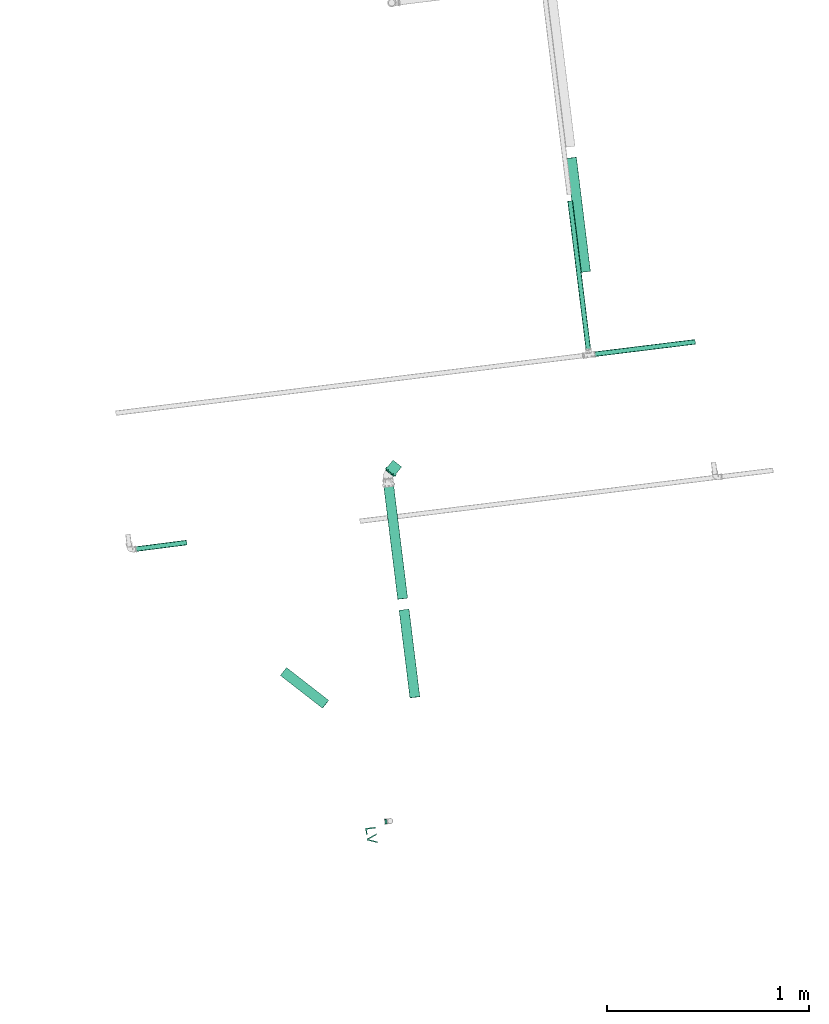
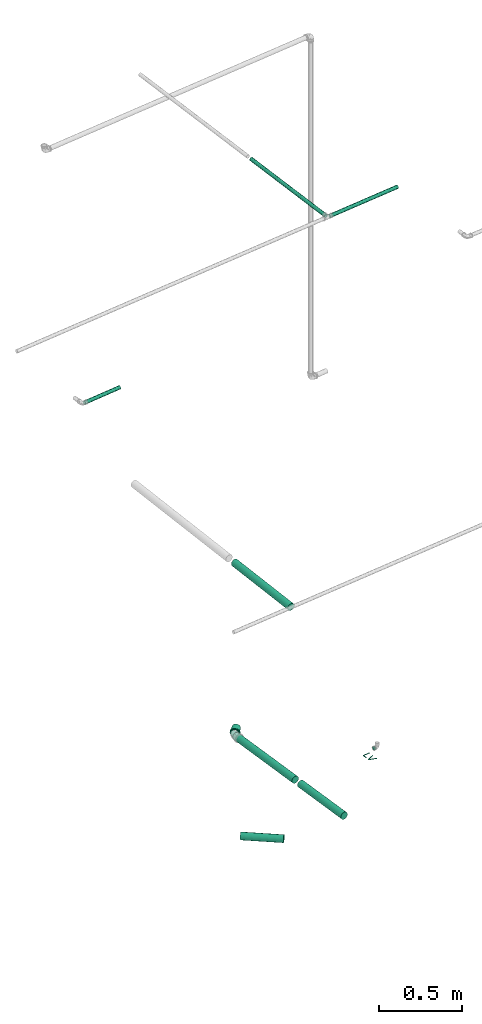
# One storey, part 4 of 8: 7 flow segments, 1 flow fitting, 1 flow terminal.
"""IFC2X3 building model written with IfcOpenShell, lengths in centimetres."""

from ifc_helpers import new_model, entity, si_unit, converted_unit, derived_unit, direction, frame, frame_2d, origin, origin_2d_with_axis, place, context, subcontext, project, spatial, polyline, circle, outline, extrude, faceted_brep, source, transform, mapped, material, material_list, type_object, type_shapes, element, save


model = new_model("IFC2X3")

# Units and contexts
model_context = context("Model", 3, precision=0.001, world=origin(), true_north=direction((6.12303176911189e-17, 1.0)))
body_context = subcontext(model_context, "Body", "Model", "MODEL_VIEW")
ifc_project = project(units=[si_unit("LENGTHUNIT", "METRE", prefix="CENTI"), si_unit("AREAUNIT", "SQUARE_METRE"), si_unit("VOLUMEUNIT", "CUBIC_METRE"), converted_unit("PLANEANGLEUNIT", "DEGREE", entity("IfcRatioMeasure", 0.0174532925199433), si_unit("PLANEANGLEUNIT", "RADIAN"), dimensions=[0, 0, 0, 0, 0, 0, 0]), si_unit("MASSUNIT", "GRAM", prefix="KILO"), derived_unit("MASSDENSITYUNIT", [(si_unit("MASSUNIT", "GRAM", prefix="KILO"), 1), (si_unit("LENGTHUNIT", "METRE"), -3)]), derived_unit("MOMENTOFINERTIAUNIT", [(si_unit("LENGTHUNIT", "METRE"), 4)]), si_unit("TIMEUNIT", "SECOND"), si_unit("FREQUENCYUNIT", "HERTZ"), si_unit("THERMODYNAMICTEMPERATUREUNIT", "DEGREE_CELSIUS"), derived_unit("THERMALTRANSMITTANCEUNIT", [(si_unit("MASSUNIT", "GRAM", prefix="KILO"), 1), (si_unit("THERMODYNAMICTEMPERATUREUNIT", "KELVIN"), -1), (si_unit("TIMEUNIT", "SECOND"), -3)]), derived_unit("VOLUMETRICFLOWRATEUNIT", [(si_unit("LENGTHUNIT", "METRE"), 3), (si_unit("TIMEUNIT", "SECOND"), -1)]), si_unit("ELECTRICCURRENTUNIT", "AMPERE"), si_unit("ELECTRICVOLTAGEUNIT", "VOLT"), si_unit("POWERUNIT", "WATT"), si_unit("FORCEUNIT", "NEWTON", prefix="KILO"), si_unit("ILLUMINANCEUNIT", "LUX"), si_unit("LUMINOUSFLUXUNIT", "LUMEN"), si_unit("LUMINOUSINTENSITYUNIT", "CANDELA"), derived_unit("USERDEFINED", [(si_unit("MASSUNIT", "GRAM", prefix="KILO"), -1), (si_unit("LENGTHUNIT", "METRE"), -2), (si_unit("TIMEUNIT", "SECOND"), 3), (si_unit("LUMINOUSFLUXUNIT", "LUMEN"), 1)]), derived_unit("LINEARVELOCITYUNIT", [(si_unit("LENGTHUNIT", "METRE"), 1), (si_unit("TIMEUNIT", "SECOND"), -1)]), si_unit("PRESSUREUNIT", "PASCAL"), derived_unit("USERDEFINED", [(si_unit("LENGTHUNIT", "METRE"), -2), (si_unit("MASSUNIT", "GRAM", prefix="KILO"), 1), (si_unit("TIMEUNIT", "SECOND"), -2)]), derived_unit("LINEARFORCEUNIT", [(si_unit("MASSUNIT", "GRAM", prefix="KILO"), 1), (si_unit("LENGTHUNIT", "METRE"), 1), (si_unit("TIMEUNIT", "SECOND"), -2), (si_unit("LENGTHUNIT", "METRE"), -1)]), derived_unit("PLANARFORCEUNIT", [(si_unit("MASSUNIT", "GRAM", prefix="KILO"), 1), (si_unit("LENGTHUNIT", "METRE"), 1), (si_unit("TIMEUNIT", "SECOND"), -2), (si_unit("LENGTHUNIT", "METRE"), -2)])], contexts=[model_context])

# Site, building, storey
site_placement = place(None, origin())
site = spatial("IfcSite", under=ifc_project, at=site_placement, Name="Default", CompositionType="ELEMENT")
building_placement = place(site_placement, origin())
building = spatial("IfcBuilding", under=site, at=building_placement, Name="HIDROSSANITÁRIO", CompositionType="ELEMENT")
storey_placement = place(building_placement, origin())
storey = spatial("IfcBuildingStorey", under=building, at=storey_placement, Name="TERRENO", CompositionType="ELEMENT", Elevation=0.0)

# Flow segments
pipe_segment_type_1 = type_object("IfcPipeSegmentType", Name="Tipos de tubos:Tubo Marrom - Água Fria - Soldável", PredefinedType="NOTDEFINED")
flow_segment_1_placement = place(storey_placement, origin())
element("IfcFlowSegment", 1, at=flow_segment_1_placement, inside=storey, type_object=pipe_segment_type_1, Name="Tipos de tubos:Tubo Marrom - Água Fria - Soldável", ObjectType="Tipos de tubos:Tubo Marrom - Água Fria - Soldável", context=body_context, shape_type="SweptSolid", body=[
    extrude(circle(Radius=1.25, at=frame_2d((2.14950323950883e-13, -3.38377009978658e-15), x_axis=(1.0, 0.0))), frame((-1580.41923541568, 3047.09863092, 17.3894348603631), z_axis=(0.122199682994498, -0.992505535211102, -7.16711588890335e-06), x_axis=(-0.992505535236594, -0.122199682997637, 0.0)), (0.0, 0.0, 1.0), 75.2515187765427),
])
flow_segment_2_placement = place(storey_placement, origin())
element("IfcFlowSegment", 2, at=flow_segment_2_placement, inside=storey, type_object=pipe_segment_type_1, Name="Tipos de tubos:Tubo Marrom - Água Fria - Soldável", ObjectType="Tipos de tubos:Tubo Marrom - Água Fria - Soldável", context=body_context, shape_type="SweptSolid", body=[
    extrude(circle(Radius=1.25, at=frame_2d((2.75448654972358e-14, -2.80964568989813e-28), x_axis=(1.0, 0.0))), frame((-1796.51320221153, 2874.79220842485, 17.3890188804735), z_axis=(0.991879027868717, 0.127184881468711, 0.0), x_axis=(0.127184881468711, -0.991879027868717, 0.0)), (0.0, 0.0, 1.0), 26.8724472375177),
])
flow_segment_3_placement = place(storey_placement, origin())
element("IfcFlowSegment", 3, at=flow_segment_3_placement, inside=storey, type_object=pipe_segment_type_1, Name="Tipos de tubos:Tubo Marrom - Água Fria - Soldável", ObjectType="Tipos de tubos:Tubo Marrom - Água Fria - Soldável", context=body_context, shape_type="SweptSolid", body=[
    extrude(circle(Radius=1.25, at=origin_2d_with_axis()), frame((-1569.46825033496, 2971.16624647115, 17.3888858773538), z_axis=(0.992505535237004, 0.122199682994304, 0.0), x_axis=(-0.122199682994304, 0.992505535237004, 0.0)), (0.0, 0.0, 1.0), 51.3459060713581),
])

# Flow terminal
ifc_material_1 = material(Name=".ID PONTOS DE CONSUMO")
ifc_material_2 = material(Name="<Unnamed>")
ifc_material_list_1 = material_list([ifc_material_1, ifc_material_2])
ifc_material_list_2 = material_list([ifc_material_1, ifc_material_1, ifc_material_2])
distribution_element_type = type_object("IfcDistributionElementType", Name="Pontos de Consumo :LAVATÓRIO", material=ifc_material_list_2)
shared_shape_1 = source(origin(), body_context, "Body", "SweptSolid", [
    extrude(outline(polyline([(-1.25570387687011, -1.88355581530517), (1.88355581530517, -1.88355581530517), (1.88355581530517, -1.25570387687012), (-0.627851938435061, -1.25570387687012), (-0.627851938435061, 3.13925969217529), (-1.25570387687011, 3.13925969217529), (-1.25570387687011, -1.88355581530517)])), frame((-3.28228646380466, 9.11204229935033, 0.0), z_axis=(0.0, 0.0, 1.0), x_axis=(-1.0, 0.0, 0.0)), (0.0, 0.0, 1.0), 0.2),
    extrude(outline(polyline([(-0.291035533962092, -2.60978212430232), (0.357663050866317, -2.60978212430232), (2.27187569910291, 2.41303338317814), (1.59987792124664, 2.41303338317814), (0.258334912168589, -1.20569917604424), (-0.00899267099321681, -2.02117093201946), (-0.279999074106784, -1.20569917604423), (-1.61786326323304, 2.41303338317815), (-2.28986104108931, 2.41303338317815), (-0.291035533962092, -2.60978212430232)])), frame((-7.6470019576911, 8.3858159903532, 0.0), z_axis=(0.0, 0.0, 1.0), x_axis=(-1.0, 0.0, 0.0)), (0.0, 0.0, 1.0), 0.2),
    extrude(circle(Radius=1.25, at=frame_2d((-6.58881963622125e-17, -2.01943071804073e-15), x_axis=(1.0, 0.0))), frame((0.0, 0.0, 0.0), z_axis=(0.0, 1.0, 0.0), x_axis=(1.0, 0.0, 0.0)), (0.0, 0.0, 1.0), 1.0),
])
type_shapes(distribution_element_type, [shared_shape_1])
flow_terminal_placement = place(storey_placement, frame((-1670.93297378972, 2740.3444434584, -200.0), z_axis=(0.0, 0.0, 1.0), x_axis=(-0.125262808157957, 0.992123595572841, 0.0)))
element("IfcFlowTerminal", 4, at=flow_terminal_placement, inside=storey, type_object=distribution_element_type, material=ifc_material_list_1, Name="Pontos de Consumo :LAVATÓRIO", ObjectType="Pontos de Consumo :LAVATÓRIO", context=body_context, shape_type="MappedRepresentation", body=[
    mapped(shared_shape_1, transform((0.0, 0.0, 0.0), scale=1.0)),
])

# Flow segments
pipe_segment_type_2 = type_object("IfcPipeSegmentType", Name="Tipos de tubos:Tubo - Esgoto - Série Normal", PredefinedType="NOTDEFINED")
flow_segment_4_placement = place(storey_placement, origin())
element("IfcFlowSegment", 5, at=flow_segment_4_placement, inside=storey, type_object=pipe_segment_type_2, Name="Tipos de tubos:Tubo - Esgoto - Série Normal", ObjectType="Tipos de tubos:Tubo - Esgoto - Série Normal", context=body_context, shape_type="SweptSolid", body=[
    extrude(circle(Radius=2.5, at=frame_2d((-1.61771824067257e-13, -8.01694277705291e-15), x_axis=(1.0, 0.0))), frame((-1657.12489057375, 2801.68985739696, -292.200000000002), z_axis=(-0.122720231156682, 0.992285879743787, -0.0175635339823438), x_axis=(-0.992438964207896, -0.122739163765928, 0.0)), (0.0, 0.0, 1.0), 43.6327346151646),
])
flow_segment_5_placement = place(storey_placement, origin())
element("IfcFlowSegment", 6, at=flow_segment_5_placement, inside=storey, type_object=pipe_segment_type_2, Name="Tipos de tubos:Tubo - Esgoto - Série Normal", ObjectType="Tipos de tubos:Tubo - Esgoto - Série Normal", context=body_context, shape_type="SweptSolid", body=[
    extrude(circle(Radius=2.5, at=frame_2d((3.42020719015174e-13, -4.66884115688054e-15), x_axis=(1.0, 0.0))), frame((-1701.24737105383, 2798.24613537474, -291.700000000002), z_axis=(-0.789496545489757, 0.613503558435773, -0.017566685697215), x_axis=(-0.613598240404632, -0.789618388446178, 0.0)), (0.0, 0.0, 1.0), 26.3947188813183),
])
flow_segment_6_placement = place(storey_placement, origin())
element("IfcFlowSegment", 7, at=flow_segment_6_placement, inside=storey, type_object=pipe_segment_type_2, Name="Tipos de tubos:Tubo - Esgoto - Série Normal", ObjectType="Tipos de tubos:Tubo - Esgoto - Série Normal", context=body_context, shape_type="SweptSolid", body=[
    extrude(circle(Radius=2.5, at=frame_2d((2.68099988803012e-13, -7.08319360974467e-15), x_axis=(1.0, 0.0))), frame((-1663.15201671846, 2850.42373047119, -293.062593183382), z_axis=(-0.122720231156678, 0.992285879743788, -0.0175635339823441), x_axis=(-0.992438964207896, -0.122739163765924, 0.0)), (0.0, 0.0, 1.0), 59.5935161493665),
])
flow_segment_7_placement = place(storey_placement, origin())
element("IfcFlowSegment", 8, at=flow_segment_7_placement, inside=storey, type_object=pipe_segment_type_2, Name="Tipos de tubos:Tubo - Esgoto - Série Normal", ObjectType="Tipos de tubos:Tubo - Esgoto - Série Normal", context=body_context, shape_type="SweptSolid", body=[
    extrude(circle(Radius=2.5, at=frame_2d((5.29099387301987e-14, 7.73741727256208e-15), x_axis=(1.0, 0.0))), frame((-1572.78409654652, 3012.00827564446, -295.040822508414), z_axis=(-0.122132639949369, 0.992350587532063, 0.0179980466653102), x_axis=(0.992511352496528, 0.122152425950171, 0.0)), (0.0, 0.0, 1.0), 56.8517340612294),
])

# Flow fitting
ifc_material_3 = material(Name="PVC Branco")
pipe_fitting_type = type_object("IfcPipeFittingType", Name="Luva Simples para Conexão - Serie Normal - Esgoto - MEP - Tigre:Standard", PredefinedType="NOTDEFINED", material=ifc_material_3)
shared_shape_2 = source(origin(), body_context, "Body", "Brep", [
    faceted_brep([(1.65999999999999, 1.59, -2.75396078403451), (1.65999999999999, 2.24859956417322, -2.24859956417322), (1.65999999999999, 1.35999999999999, -2.35558909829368), (1.65999999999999, 0.703987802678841, -2.62731824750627), (1.65999999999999, 0.82304456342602, -3.07164412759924), (1.65999999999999, 1.9233304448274, -1.92333044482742), (1.65999999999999, 2.75396078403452, -1.59), (1.65999999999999, 2.35558909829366, -1.36000000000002), (1.65999999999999, 2.62731824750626, -0.703987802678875), (1.65999999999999, 3.07164412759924, -0.823044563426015), (1.65999999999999, 2.72, 0.0), (1.65999999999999, 3.18, 0.0), (1.65999999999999, 2.62731824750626, 0.703987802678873), (1.65999999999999, 3.07164412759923, 0.823044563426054), (1.65999999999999, 2.35558909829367, 1.36000000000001), (1.65999999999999, 2.7539607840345, 1.59000000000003), (1.65999999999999, 1.9233304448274, 1.92333044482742), (1.65999999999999, 2.24859956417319, 2.24859956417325), (1.65999999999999, 1.35999999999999, 2.35558909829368), (1.65999999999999, 1.58999999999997, 2.75396078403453), (1.65999999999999, 0.703987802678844, 2.62731824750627), (1.65999999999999, 0.823044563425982, 3.07164412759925), (1.65999999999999, 0.0, 2.72), (1.65999999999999, 0.0, 3.18), (1.65999999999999, -0.703987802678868, 2.62731824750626), (1.65999999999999, -0.823044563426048, 3.07164412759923), (1.65999999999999, -1.36000000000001, 2.35558909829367), (1.65999999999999, -1.59000000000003, 2.7539607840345), (1.65999999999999, -1.92333044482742, 1.9233304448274), (1.65999999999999, -2.24859956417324, 2.2485995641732), (1.65999999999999, -2.35558909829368, 1.35999999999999), (1.65999999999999, -2.75396078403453, 1.58999999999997), (1.65999999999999, -3.07164412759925, 0.823044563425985), (1.65999999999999, -2.62731824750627, 0.703987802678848), (1.65999999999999, -3.18, 0.0), (1.65999999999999, -2.72, 0.0), (1.65999999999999, -3.07164412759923, -0.823044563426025), (1.65999999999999, -2.62731824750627, -0.703987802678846), (1.65999999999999, -2.75396078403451, -1.59000000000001), (1.65999999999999, -2.35558909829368, -1.35999999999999), (1.65999999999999, -2.24859956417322, -2.24859956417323), (1.65999999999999, -1.92333044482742, -1.9233304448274), (1.65999999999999, -1.58999999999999, -2.75396078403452), (1.65999999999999, -1.36000000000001, -2.35558909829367), (1.65999999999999, -0.823044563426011, -3.07164412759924), (1.65999999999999, -0.70398780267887, -2.62731824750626), (1.65999999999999, 0.0, -3.18), (1.65999999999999, 0.0, -2.72), (0.650000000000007, -1.07081089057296, 2.94292196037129), (0.650000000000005, -2.43590738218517, 2.04420038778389), (0.650000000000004, -2.7120498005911, 1.56595386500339), (0.650000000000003, -2.98819221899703, 1.08770734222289), (0.650000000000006, -1.58976972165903, 2.75409372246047), (0.650000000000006, -2.0128385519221, 2.39914705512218), (0.650000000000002, -3.08409610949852, 0.54385367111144), (0.650000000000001, -3.18, 0.0), (0.650000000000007, -0.551852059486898, 3.13175019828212), (0.650000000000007, 0.552637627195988, 3.13161167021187), (0.650000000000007, 0.000392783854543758, 3.13168093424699), (0.650000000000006, 2.01344030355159, 2.39864206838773), (0.650000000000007, 1.07154907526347, 2.94265325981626), (0.650000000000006, 1.59046052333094, 2.75369484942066), (0.650000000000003, 2.98846497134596, 1.08695773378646), (0.650000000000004, 2.7124425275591, 1.56527351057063), (0.650000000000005, 2.43642008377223, 2.0435892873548), (0.650000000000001, 3.18, 0.0), (0.649999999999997, 2.43642008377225, -2.04358928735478), (0.649999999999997, 2.71244252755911, -1.5652735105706), (0.649999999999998, 2.98846497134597, -1.08695773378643), (0.649999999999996, 1.59046052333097, -2.75369484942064), (0.649999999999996, 2.01344030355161, -2.39864206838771), (0.649999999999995, 1.07154907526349, -2.94265325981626), (0.649999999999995, 0.552637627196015, -3.13161167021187), (0.649999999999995, -0.551852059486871, -3.13175019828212), (0.649999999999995, 0.000392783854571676, -3.13168093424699), (0.649999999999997, -2.01283855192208, -2.3991470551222), (0.649999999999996, -1.58976972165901, -2.75409372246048), (0.649999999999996, -1.07081089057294, -2.9429219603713), (0.649999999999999, -2.98819221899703, -1.08770734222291), (0.649999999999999, -2.71204980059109, -1.56595386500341), (0.649999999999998, -2.43590738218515, -2.04420038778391), (0.65, -3.08409610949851, -0.543853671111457), (0.64999999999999, -3.06961738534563, -0.625959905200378), (6.20000000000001, 1.36, -2.35558909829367), (6.20000000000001, 1.92333044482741, -1.92333044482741), (6.20000000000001, 1.24999999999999, -2.1650635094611), (6.20000000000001, 0.647047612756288, -2.41481456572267), (6.20000000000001, 0.70398780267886, -2.62731824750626), (6.20000000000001, 1.76776695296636, -1.76776695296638), (6.20000000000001, 2.35558909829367, -1.36), (6.20000000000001, 2.16506350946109, -1.25000000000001), (6.20000000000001, 2.41481456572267, -0.647047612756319), (6.20000000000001, 2.62731824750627, -0.703987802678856), (6.20000000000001, 2.5, 0.0), (6.20000000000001, 2.72, 0.0), (6.20000000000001, 2.41481456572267, 0.647047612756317), (6.20000000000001, 2.62731824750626, 0.703987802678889), (6.20000000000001, 2.16506350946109, 1.25000000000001), (6.20000000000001, 2.35558909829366, 1.36000000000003), (6.20000000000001, 1.76776695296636, 1.76776695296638), (6.20000000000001, 1.92333044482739, 1.92333044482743), (6.20000000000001, 1.24999999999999, 2.1650635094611), (6.20000000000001, 1.35999999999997, 2.35558909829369), (6.20000000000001, 0.64704761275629, 2.41481456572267), (6.20000000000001, 0.703987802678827, 2.62731824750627), (6.20000000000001, 0.0, 2.5), (6.20000000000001, 0.0, 2.72), (6.20000000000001, -0.647047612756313, 2.41481456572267), (6.20000000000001, -0.703987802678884, 2.62731824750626), (6.20000000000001, -1.25000000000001, 2.16506350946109), (6.20000000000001, -1.36000000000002, 2.35558909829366), (6.20000000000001, -1.76776695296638, 1.76776695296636), (6.20000000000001, -1.92333044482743, 1.92333044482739), (6.20000000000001, -2.1650635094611, 1.24999999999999), (6.20000000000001, -2.35558909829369, 1.35999999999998), (6.20000000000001, -2.62731824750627, 0.703987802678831), (6.20000000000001, -2.41481456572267, 0.647047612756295), (6.20000000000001, -2.72, 0.0), (6.20000000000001, -2.5, 0.0), (6.20000000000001, -2.62731824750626, -0.703987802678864), (6.20000000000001, -2.41481456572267, -0.647047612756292), (6.20000000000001, -2.35558909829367, -1.36000000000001), (6.20000000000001, -2.1650635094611, -1.24999999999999), (6.20000000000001, -1.9233304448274, -1.92333044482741), (6.20000000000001, -1.76776695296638, -1.76776695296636), (6.20000000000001, -1.36, -2.35558909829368), (6.20000000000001, -1.25000000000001, -2.16506350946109), (6.20000000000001, -0.703987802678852, -2.62731824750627), (6.20000000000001, -0.647047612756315, -2.41481456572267), (6.20000000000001, 0.0, -2.72), (6.20000000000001, 0.0, -2.5), (0.0, 1.24999999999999, -2.1650635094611), (0.0, 1.92333044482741, -1.92333044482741), (0.0, 1.36, -2.35558909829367), (0.0, 0.647047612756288, -2.41481456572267), (0.0, 1.76776695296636, -1.76776695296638), (0.0, 2.35558909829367, -1.36), (0.0, 2.16506350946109, -1.25000000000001), (0.0, 2.41481456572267, -0.647047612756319), (0.0, 2.62731824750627, -0.703987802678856), (0.0, 2.5, 0.0), (0.0, 2.72, 0.0), (0.0, 2.41481456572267, 0.647047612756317), (0.0, 2.62731824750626, 0.703987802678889), (0.0, 2.16506350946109, 1.25000000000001), (0.0, 2.35558909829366, 1.36000000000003), (0.0, 1.76776695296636, 1.76776695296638), (0.0, 1.92333044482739, 1.92333044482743), (0.0, 1.24999999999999, 2.1650635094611), (0.0, 1.35999999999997, 2.35558909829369), (0.0, 0.64704761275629, 2.41481456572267), (0.0, 0.703987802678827, 2.62731824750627), (0.0, 0.0, 2.5), (0.0, 0.0, 2.72), (0.0, -0.647047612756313, 2.41481456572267), (0.0, -0.703987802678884, 2.62731824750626), (0.0, -1.25000000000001, 2.16506350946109), (0.0, -1.36000000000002, 2.35558909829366), (0.0, -1.76776695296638, 1.76776695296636), (0.0, -1.92333044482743, 1.92333044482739), (0.0, -2.1650635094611, 1.24999999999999), (0.0, -2.35558909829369, 1.35999999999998), (0.0, -2.62731824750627, 0.703987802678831), (0.0, -2.41481456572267, 0.647047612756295), (0.0, -2.72, 0.0), (0.0, -2.5, 0.0), (0.0, -2.62731824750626, -0.703987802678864), (0.0, -2.41481456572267, -0.647047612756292), (0.0, -2.35558909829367, -1.36000000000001), (0.0, -2.1650635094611, -1.24999999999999), (0.0, -1.9233304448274, -1.92333044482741), (0.0, -1.76776695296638, -1.76776695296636), (0.0, -1.36, -2.35558909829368), (0.0, -1.25000000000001, -2.16506350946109), (0.0, -0.703987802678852, -2.62731824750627), (0.0, -0.647047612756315, -2.41481456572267), (0.0, 0.0, -2.72), (0.0, 0.0, -2.5), (0.0, 0.70398780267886, -2.62731824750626), (0.53, -2.63796899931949, 0.465183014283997), (0.529999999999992, -2.62558467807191, 0.535412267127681), (0.530000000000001, -2.55593799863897, 0.930366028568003), (0.530000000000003, -2.08354342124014, 1.74849844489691), (0.530000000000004, -1.72167322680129, 2.05210062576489), (0.530000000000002, -2.31974070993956, 1.33943223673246), (0.530000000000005, -0.472024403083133, 2.67872972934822), (0.530000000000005, -0.915913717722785, 2.51721626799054), (0.53, -2.72, 0.0), (0.530000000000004, -1.35980303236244, 2.35570280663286), (0.530000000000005, 0.916545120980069, 2.51698643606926), (0.530000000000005, 1.36039390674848, 2.35536163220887), (0.530000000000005, 0.47269633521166, 2.67861123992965), (0.530000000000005, 1.72218793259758, 2.05166868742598), (0.530000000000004, 2.08398195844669, 1.7479757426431), (0.530000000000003, 2.5561712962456, 0.929724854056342), (0.53, 2.72, 0.0), (0.530000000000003, 2.32007662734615, 1.33885029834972), (0.530000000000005, 0.000335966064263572, 2.67867048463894), (0.529999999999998, 2.55617129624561, -0.929724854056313), (0.529999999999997, 2.08398195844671, -1.74797574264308), (0.529999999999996, 1.7221879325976, -2.05166868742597), (0.529999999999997, 2.32007662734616, -1.3388502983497), (0.529999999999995, 0.472696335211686, -2.67861123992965), (0.529999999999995, 0.916545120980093, -2.51698643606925), (0.529999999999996, 1.3603939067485, -2.35536163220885), (0.529999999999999, -2.63796899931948, -0.465183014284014), (0.529999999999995, -0.915913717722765, -2.51721626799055), (0.529999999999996, -1.35980303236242, -2.35570280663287), (0.529999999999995, -0.47202440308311, -2.67872972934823), (0.529999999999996, -1.72167322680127, -2.0521006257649), (0.529999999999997, -2.08354342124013, -1.74849844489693), (0.529999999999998, -2.55593799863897, -0.930366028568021), (0.529999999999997, -2.31974070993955, -1.33943223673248), (0.529999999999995, 0.000335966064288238, -2.67867048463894), (3.9, -2.5, 0.0), (3.9, 2.5, 0.0)], [[[0, 1, 2]], [[0, 2, 3]], [[3, 4, 0]], [[2, 1, 5]], [[6, 5, 1]], [[7, 5, 6]], [[8, 7, 6]], [[8, 6, 9]], [[8, 9, 10]], [[10, 9, 11]], [[12, 10, 11]], [[12, 11, 13]], [[14, 12, 13]], [[14, 13, 15]], [[16, 14, 15]], [[15, 17, 16]], [[17, 18, 16]], [[17, 19, 18]], [[18, 19, 20]], [[21, 20, 19]], [[20, 21, 22]], [[22, 21, 23]], [[22, 23, 24]], [[24, 23, 25]], [[24, 25, 26]], [[27, 26, 25]], [[27, 28, 26]], [[28, 27, 29]], [[30, 28, 29]], [[31, 30, 29]], [[32, 30, 31]], [[33, 30, 32]], [[33, 32, 34]], [[35, 33, 34]], [[36, 35, 34]], [[36, 37, 35]], [[37, 36, 38]], [[39, 37, 38]], [[39, 38, 40]], [[39, 40, 41]], [[40, 42, 41]], [[41, 42, 43]], [[43, 42, 44]], [[44, 45, 43]], [[46, 45, 44]], [[4, 47, 46]], [[46, 47, 45]], [[4, 3, 47]], [[48, 27, 25]], [[31, 29, 49]], [[31, 49, 50, 51]], [[52, 53, 27]], [[32, 51, 54]], [[54, 55, 34]], [[54, 34, 32]], [[25, 56, 48]], [[49, 29, 53]], [[23, 57, 58, 56]], [[59, 19, 17]], [[27, 53, 29]], [[48, 52, 27]], [[31, 51, 32]], [[57, 23, 21]], [[60, 19, 61]], [[15, 62, 63, 64]], [[19, 60, 21]], [[15, 13, 62]], [[17, 64, 59]], [[57, 21, 60]], [[23, 56, 25]], [[15, 64, 17]], [[13, 65, 62]], [[13, 11, 65]], [[59, 61, 19]], [[65, 11, 9]], [[6, 1, 66]], [[6, 66, 67, 68]], [[69, 70, 0]], [[68, 65, 9]], [[71, 69, 0]], [[71, 0, 4]], [[4, 72, 71]], [[66, 1, 70]], [[46, 73, 74, 72]], [[75, 76, 42]], [[0, 70, 1]], [[75, 42, 40]], [[6, 68, 9]], [[73, 46, 44]], [[77, 42, 76]], [[38, 78, 79, 80]], [[42, 77, 44]], [[38, 36, 78]], [[40, 80, 75]], [[73, 44, 77]], [[46, 72, 4]], [[38, 80, 40]], [[36, 81, 82, 78]], [[55, 81, 34]], [[34, 81, 36]], [[83, 84, 85]], [[83, 85, 86]], [[86, 87, 83]], [[85, 84, 88]], [[89, 88, 84]], [[88, 89, 90]], [[90, 89, 91]], [[92, 91, 89]], [[92, 93, 91]], [[93, 92, 94]], [[95, 93, 94]], [[94, 96, 95]], [[95, 96, 97]], [[98, 97, 96]], [[97, 98, 99]], [[99, 98, 100]], [[101, 99, 100]], [[100, 102, 101]], [[101, 102, 103]], [[104, 103, 102]], [[103, 104, 105]], [[105, 104, 106]], [[105, 106, 107]], [[107, 106, 108]], [[107, 108, 109]], [[110, 109, 108]], [[110, 111, 109]], [[111, 110, 112]], [[112, 113, 111]], [[114, 113, 112]], [[113, 114, 115]], [[115, 116, 113]], [[117, 116, 115]], [[117, 118, 116]], [[119, 118, 117]], [[119, 120, 118]], [[120, 119, 121]], [[121, 122, 120]], [[122, 121, 123]], [[122, 123, 124]], [[123, 125, 124]], [[124, 125, 126]], [[126, 125, 127]], [[127, 128, 126]], [[129, 128, 127]], [[87, 130, 129]], [[129, 130, 128]], [[87, 86, 130]], [[131, 132, 133]], [[134, 131, 133]], [[135, 132, 131]], [[132, 135, 136]], [[137, 136, 135]], [[138, 136, 137]], [[136, 138, 139]], [[138, 140, 139]], [[141, 139, 140]], [[141, 140, 142]], [[142, 143, 141]], [[144, 143, 142]], [[143, 144, 145]], [[146, 145, 144]], [[147, 145, 146]], [[147, 146, 148]], [[148, 149, 147]], [[150, 149, 148]], [[149, 150, 151]], [[152, 151, 150]], [[153, 151, 152]], [[154, 153, 152]], [[155, 153, 154]], [[156, 155, 154]], [[155, 156, 157]], [[156, 158, 157]], [[159, 157, 158]], [[158, 160, 159]], [[159, 160, 161]], [[162, 161, 160]], [[160, 163, 162]], [[162, 163, 164]], [[163, 165, 164]], [[164, 165, 166]], [[165, 167, 166]], [[168, 166, 167]], [[167, 169, 168]], [[170, 168, 169]], [[171, 170, 169]], [[171, 172, 170]], [[173, 172, 171]], [[174, 172, 173]], [[173, 175, 174]], [[174, 175, 176]], [[175, 177, 176]], [[177, 134, 178]], [[176, 177, 178]], [[133, 178, 134]], [[162, 179, 180, 181]], [[159, 182, 183]], [[182, 161, 181, 184]], [[185, 155, 186]], [[161, 162, 181]], [[187, 179, 164]], [[183, 188, 157]], [[183, 157, 159]], [[161, 182, 159]], [[189, 190, 149]], [[189, 149, 151]], [[157, 188, 186]], [[157, 186, 155]], [[153, 155, 185]], [[164, 179, 162]], [[151, 191, 189]], [[147, 192, 193]], [[143, 194, 195]], [[194, 145, 193, 196]], [[143, 195, 141]], [[10, 12, 96, 94]], [[149, 192, 147]], [[153, 185, 197, 191]], [[153, 191, 151]], [[145, 147, 193]], [[190, 192, 149]], [[145, 194, 143]], [[139, 195, 198]], [[132, 199, 200]], [[199, 136, 198, 201]], [[202, 178, 203]], [[136, 139, 198]], [[139, 141, 195]], [[92, 8, 10, 94]], [[133, 203, 178]], [[200, 204, 133]], [[136, 199, 132]], [[205, 164, 166]], [[206, 207, 172]], [[133, 204, 203]], [[206, 172, 174]], [[176, 178, 202]], [[200, 133, 132]], [[174, 208, 206]], [[170, 209, 210]], [[166, 211, 205]], [[211, 168, 210, 212]], [[168, 211, 166]], [[172, 209, 170]], [[176, 202, 213, 208]], [[176, 208, 174]], [[168, 170, 210]], [[207, 209, 172]], [[205, 187, 164]], [[116, 118, 214, 165, 163]], [[156, 109, 111, 158]], [[111, 113, 160, 158]], [[113, 116, 163, 160]], [[107, 109, 156, 154]], [[154, 152, 105, 107]], [[103, 105, 152, 150]], [[103, 150, 148, 101]], [[142, 95, 97, 144]], [[97, 99, 146, 144]], [[99, 101, 148, 146]], [[93, 95, 142, 140, 215]], [[215, 140, 138, 91, 93]], [[135, 131, 85, 88]], [[90, 91, 138, 137]], [[90, 137, 135, 88]], [[86, 85, 131, 134]], [[134, 177, 130, 86]], [[128, 130, 177, 175]], [[128, 175, 173, 126]], [[167, 120, 122, 169]], [[122, 124, 171, 169]], [[124, 126, 173, 171]], [[118, 120, 167, 165, 214]], [[211, 78, 82, 81, 55, 187, 205]], [[79, 78, 211, 212, 210, 80]], [[75, 80, 210, 209, 207, 76]], [[207, 206, 208, 73, 77, 76]], [[213, 202, 72, 74, 73, 208]], [[203, 204, 69, 71, 72, 202]], [[198, 195, 65, 68]], [[199, 201, 198, 68, 67, 66]], [[204, 200, 199, 66, 70, 69]], [[195, 194, 62, 65]], [[197, 185, 56, 58, 57, 191]], [[63, 62, 194, 196, 193, 64]], [[57, 60, 61, 190, 189, 191]], [[193, 192, 190, 61, 59, 64]], [[48, 56, 185, 186, 188, 52]], [[187, 55, 54, 51, 181, 180, 179]], [[182, 184, 181, 51, 50, 49]], [[188, 183, 182, 49, 53, 52]], [[30, 33, 115, 114]], [[117, 115, 33, 35]], [[26, 28, 112, 110]], [[114, 112, 28, 30]], [[24, 26, 110, 108]], [[108, 106, 22, 24]], [[18, 20, 104, 102]], [[100, 16, 18, 102]], [[12, 14, 98, 96]], [[100, 98, 14, 16]], [[104, 20, 22, 106]], [[89, 7, 8, 92]], [[83, 87, 3, 2]], [[7, 89, 84, 5]], [[83, 2, 5, 84]], [[87, 129, 47, 3]], [[43, 45, 127, 125]], [[123, 41, 43, 125]], [[37, 39, 121, 119]], [[123, 121, 39, 41]], [[35, 37, 119, 117]], [[127, 45, 47, 129]]]),
])
type_shapes(pipe_fitting_type, [shared_shape_2])
flow_fitting_placement = place(storey_placement, frame((-1669.66332107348, 2912.41494008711, -294.153642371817), z_axis=(-0.00536505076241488, 0.0170337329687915, 0.999840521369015), x_axis=(0.621182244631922, 0.783602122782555, -0.0100165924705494)))
element("IfcFlowFitting", 9, at=flow_fitting_placement, inside=storey, type_object=pipe_fitting_type, material=ifc_material_3, Name="Luva Simples para Conexão - Serie Normal - Esgoto - MEP - Tigre:Standard", ObjectType="Luva Simples para Conexão - Serie Normal - Esgoto - MEP - Tigre:Standard", context=body_context, shape_type="MappedRepresentation", body=[
    mapped(shared_shape_2, transform((0.0, 0.0, 0.0), scale=1.0)),
])

save(model, "model.ifc")
